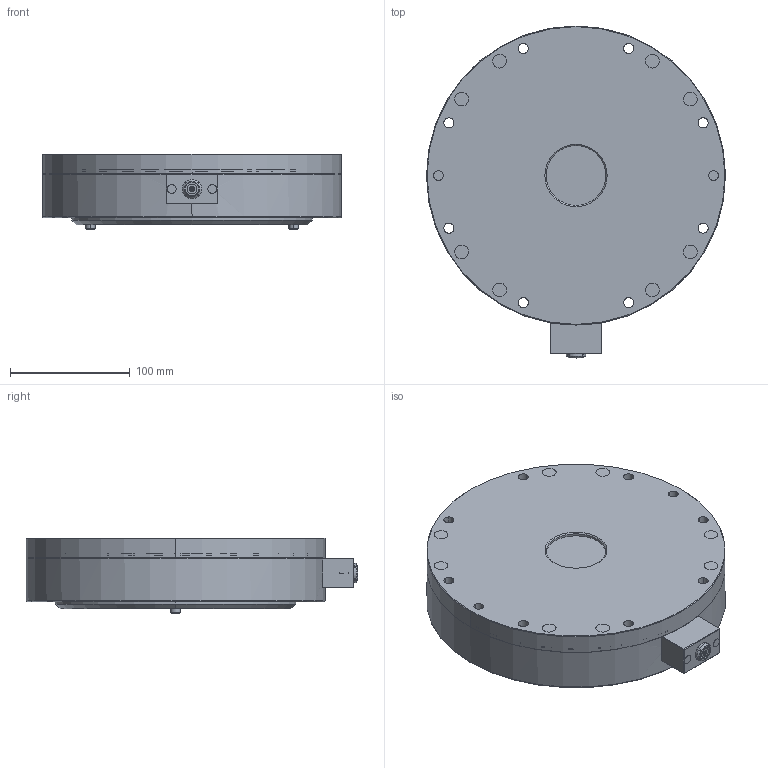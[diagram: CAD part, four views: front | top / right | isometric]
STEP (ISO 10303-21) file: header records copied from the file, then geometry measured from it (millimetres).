
FILE_DESCRIPTION((''),'2;1');
FILE_NAME('3635D3-00_ASM_ASM','2020-07-07T08:58:41',('Administrator'),(''),'CREO PARAMETRIC BY PTC INC, 2016390','CREO PARAMETRIC BY PTC INC, 2016390','');
FILE_SCHEMA(('CONFIG_CONTROL_DESIGN'));
Length unit declared in the file: millimetre
Products named in the file (24): 3635D3-15_435; 3635D3-10_ASM_102_ASM; 3635D3-24_196; 5000524_32; 3635D3-25_ASM_41_ASM; 5000081_63; 3635D3-FILLER3_5; 3635D3-31_74; 5000287_63; LEMO_ECG_1B_308_CLN_5; 3635C2-CIRCUIT_18; 3635D2-26_6; 5000393_63; 3635D3-O-RING_13; 3635D3-01_ASM_205_ASM; 3635D3-21_117; 5000433_32; M8X12_32; 3635D3-22_ASM_12_ASM; 3635D3-FILLER1_9; 5000604_63; 3635D3-FILLER4_2; 3635D3-00_ASM_56_ASM; 3635D3-00_ASM_ASM
Assembly tree (58 placements, depth 5):
  3635D3-00_ASM_ASM
    3635D3-00_ASM_56_ASM
      3635D3-01_ASM_205_ASM
        3635D3-10_ASM_102_ASM
          3635D3-15_435
        3635D3-25_ASM_41_ASM
          3635D3-24_196
          5000524_32  x2
        5000081_63  x8
        3635D3-FILLER3_5  x8
        3635D3-31_74
        5000287_63  x2
        LEMO_ECG_1B_308_CLN_5
        3635C2-CIRCUIT_18
        3635D2-26_6
        5000393_63  x2
        3635D3-O-RING_13
      3635D3-22_ASM_12_ASM
        3635D3-21_117
        5000433_32  x2
        M8X12_32  x2
      3635D3-FILLER1_9
      5000604_63  x8
      3635D3-FILLER3_5  x8
      3635D3-FILLER4_2  x2
Bounding box: 250 x 277.5 x 63 mm (x, y, z)
Volume: 2589331.3 mm3; surface area: 417172.3 mm2
Topology: 53 solids, 101 shells, 1261 faces, 3054 edges, 2012 vertices
Faces by surface type: cylinder 612, plane 464, cone 179, torus 6
Entity records: 27531 total; most frequent: CARTESIAN_POINT 5320, DIRECTION 5079, ORIENTED_EDGE 4056, EDGE_CURVE 2092, AXIS2_PLACEMENT_3D 2083, VERTEX_POINT 1412, EDGE_LOOP 1080, CIRCLE 1079
